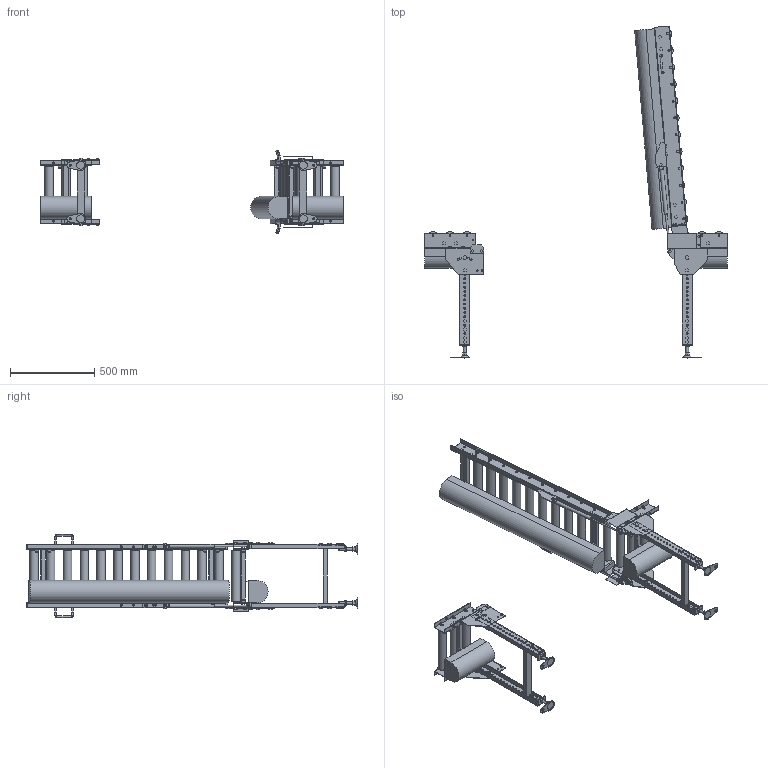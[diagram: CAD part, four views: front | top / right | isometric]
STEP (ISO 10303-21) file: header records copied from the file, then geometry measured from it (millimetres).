
FILE_DESCRIPTION( (''), '2;1');
FILE_NAME ('WEB-MCD50-315-100-120-R-HU.stp','2025-07-01T15:58:17',(''),(''),'spGate 20.6.2 (****-****-****-****)','','');
FILE_SCHEMA (('AUTOMOTIVE_DESIGN'));
Length unit declared in the file: millimetre
Products named in the file (24): WEB-MCD50-315-100-120-R-HU; TEMP_X_T-prt0; TEMP_X_T-prt1; TEMP_X_T-prt2; TEMP_X_T-prt3; TEMP_X_T-prt4; TEMP_X_T-prt5; TEMP_X_T-prt6; TEMP_X_T-prt7; TEMP_X_T-prt8; TEMP_X_T-prt9; TEMP_X_T-prt10; TEMP_X_T-prt11; TEMP_X_T-prt12; TEMP_X_T-prt13; TEMP_X_T-prt14; TEMP_X_T-prt15; TEMP_X_T-prt16; TEMP_X_T-prt17; TEMP_X_T-prt18; TEMP_X_T-prt19; TEMP_X_T-prt20; TEMP_X_T-prt21; TEMP_X_T-prt22
Assembly tree (23 placements, depth 2):
  WEB-MCD50-315-100-120-R-HU
    TEMP_X_T-prt0
    TEMP_X_T-prt1
    TEMP_X_T-prt2
    TEMP_X_T-prt3
    TEMP_X_T-prt4
    TEMP_X_T-prt5
    TEMP_X_T-prt6
    TEMP_X_T-prt7
    TEMP_X_T-prt8
    TEMP_X_T-prt9
    TEMP_X_T-prt10
    TEMP_X_T-prt11
    TEMP_X_T-prt12
    TEMP_X_T-prt13
    TEMP_X_T-prt14
    TEMP_X_T-prt15
    TEMP_X_T-prt16
    TEMP_X_T-prt17
    TEMP_X_T-prt18
    TEMP_X_T-prt19
    TEMP_X_T-prt20
    TEMP_X_T-prt21
    TEMP_X_T-prt22
Bounding box: 1791.65 x 1964.71 x 491.4 mm (x, y, z)
Volume: 41243512.9 mm3; surface area: 4246834.7 mm2
Topology: 23 solids, 49 shells, 2584 faces, 6539 edges, 4306 vertices
Faces by surface type: plane 2123, cylinder 443, bspline 18
Full cylindrical faces by diameter (mm): 8 x8, 8.5 x8, 9 x20, 10 x58, 10.5 x96, 11 x8, 12 x38, 13 x12, 14 x4, 15 x6, 15.4 x2, 15.7 x2, 16 x10, 17 x4, 18 x6, 18.4 x28, 18.5 x8, 21 x12, 22 x2, 50.8 x18
Entity records: 132501 total; most frequent: CARTESIAN_POINT 14933, DIRECTION 13226, ORIENTED_EDGE 13078, COLOUR_RGB 9146, PRESENTATION_STYLE_ASSIGNMENT 9146, STYLED_ITEM 9146, EDGE_CURVE 6539, DRAUGHTING_PRE_DEFINED_CURVE_FONT 6539
